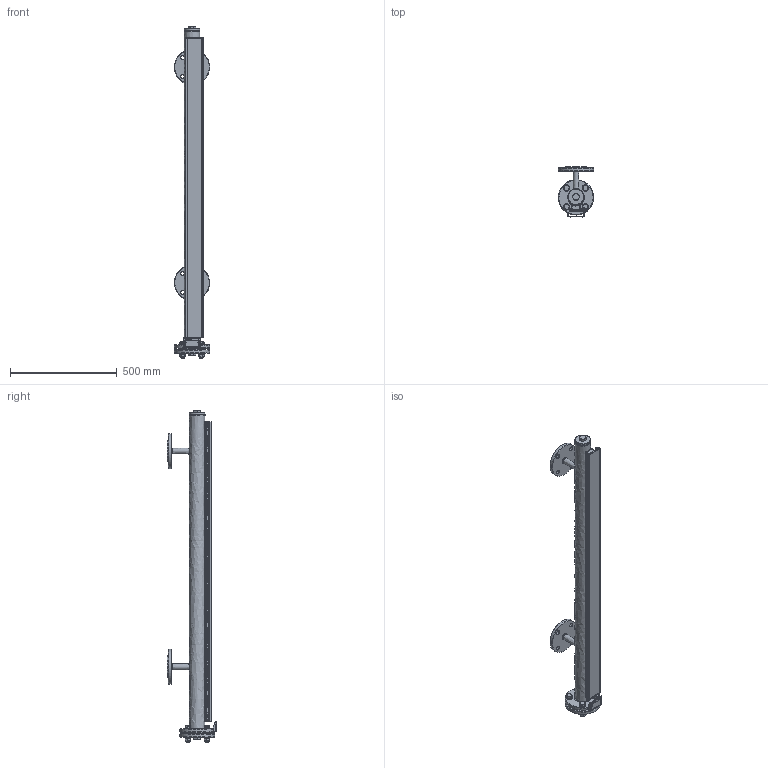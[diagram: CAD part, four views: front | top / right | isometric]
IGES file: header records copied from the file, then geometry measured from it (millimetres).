
Global section: file name: ML_E_2; native system: Autodesk Inventor 2015; preprocessor: unknown; author: aantal; date: 20151021.144330; units: millimetre
Bounding box: 165 x 232 x 1554.5 mm (x, y, z)
Volume: 3599173 mm3; surface area: 1697046.9 mm2
Topology: 33 solids, 33 shells, 945 faces, 2445 edges, 1609 vertices
Faces by surface type: bspline 945
